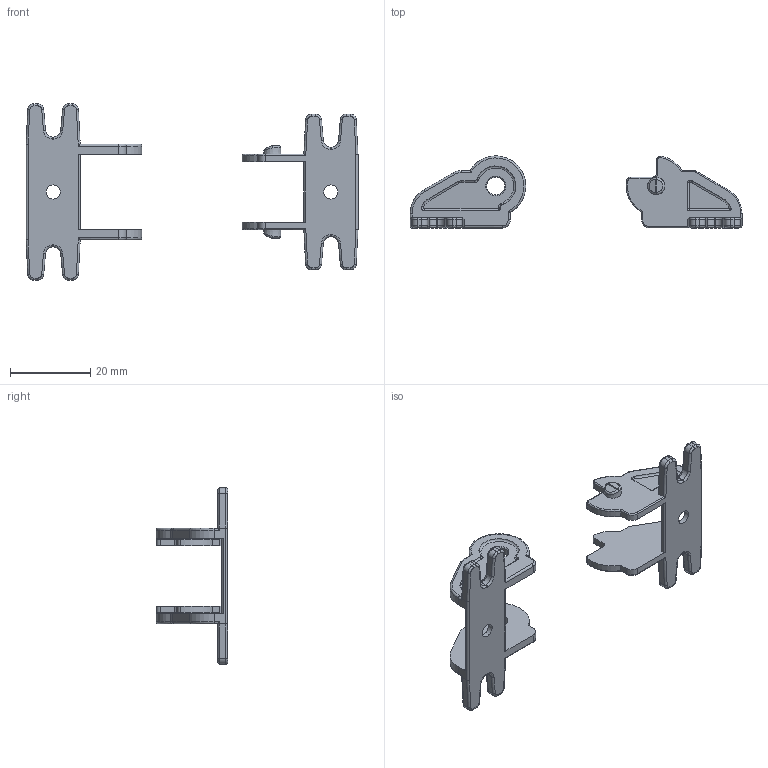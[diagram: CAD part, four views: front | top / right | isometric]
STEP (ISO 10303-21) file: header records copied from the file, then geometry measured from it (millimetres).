
FILE_DESCRIPTION(/* description */ (''),/* implementation_level */ '2;1');
FILE_NAME(/* name */ 'SA4 15',/* time_stamp */ '2016-02-12T11:43:38+02:00',/* author */ (''),/* organization */ (''),/* preprocessor_version */ 'ST-DEVELOPER v9',/* originating_system */ 'EDS PLM SOLUTIONS - UNIGRAPHICS NX 2.0',/* authorisation */ '');
FILE_SCHEMA (('CONFIG_CONTROL_DESIGN'));
Length unit declared in the file: millimetre
Products named in the file (1): user833Cf9o0
Bounding box: 82.7 x 17.92 x 43.9 mm (x, y, z)
Volume: 4570.4 mm3; surface area: 5541.8 mm2
Topology: 2 solids, 2 shells, 354 faces, 873 edges, 513 vertices
Faces by surface type: cylinder 166, torus 90, plane 72, sphere 14, cone 6, bspline 6
Full cylindrical faces by diameter (mm): 3.5 x2, 4.45 x2
Entity records: 10774 total; most frequent: CARTESIAN_POINT 2169, DIRECTION 1990, ORIENTED_EDGE 1692, EDGE_CURVE 846, AXIS2_PLACEMENT_3D 815, VERTEX_POINT 510, CIRCLE 444, EDGE_LOOP 376
